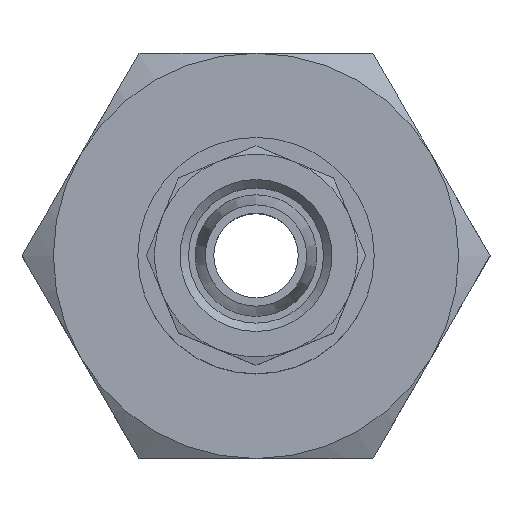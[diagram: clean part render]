
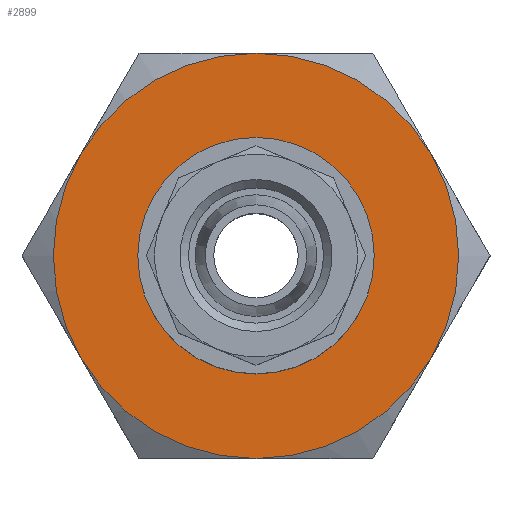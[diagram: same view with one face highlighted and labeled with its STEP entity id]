
A CAD part, top view. The second image highlights one B-rep face of the part: STEP entity #2899.
In plain terms, the highlighted planar face has unit normal (0, 0, 1) as drawn and (0, 1, 0) by its records, which use the part's own axes.
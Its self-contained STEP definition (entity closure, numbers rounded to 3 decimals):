
#1340=PLANE('',#2752);
#1416=ORIENTED_EDGE('',*,*,#1762,.F.);
#1417=ORIENTED_EDGE('',*,*,#1760,.F.);
#1418=ORIENTED_EDGE('',*,*,#1763,.F.);
#1419=ORIENTED_EDGE('',*,*,#1764,.F.);
#1420=ORIENTED_EDGE('',*,*,#1765,.F.);
#1421=ORIENTED_EDGE('',*,*,#1766,.F.);
#1422=ORIENTED_EDGE('',*,*,#1767,.T.);
#1617=CIRCLE('',#2750,12.);
#1618=CIRCLE('',#2753,12.);
#1619=CIRCLE('',#2754,12.);
#1620=CIRCLE('',#2755,12.);
#1621=CIRCLE('',#2756,12.);
#1622=CIRCLE('',#2757,12.);
#1623=CIRCLE('',#2758,5.25);
#1673=VERTEX_POINT('',#2500);
#1676=VERTEX_POINT('',#2509);
#1677=VERTEX_POINT('',#2513);
#1678=VERTEX_POINT('',#2515);
#1679=VERTEX_POINT('',#2517);
#1680=VERTEX_POINT('',#2519);
#1681=VERTEX_POINT('',#2522);
#1760=EDGE_CURVE('',#1676,#1673,#1617,.T.);
#1762=EDGE_CURVE('',#1673,#1677,#1618,.T.);
#1763=EDGE_CURVE('',#1678,#1676,#1619,.T.);
#1764=EDGE_CURVE('',#1679,#1678,#1620,.T.);
#1765=EDGE_CURVE('',#1680,#1679,#1621,.T.);
#1766=EDGE_CURVE('',#1677,#1680,#1622,.T.);
#1767=EDGE_CURVE('',#1681,#1681,#1623,.T.);
#1886=EDGE_LOOP('',(#1416,#1417,#1418,#1419,#1420,#1421));
#1887=EDGE_LOOP('',(#1422));
#1992=FACE_BOUND('',#1886,.T.);
#1993=FACE_BOUND('',#1887,.T.);
#2169=DIRECTION('',(0.,-1.,0.));
#2170=DIRECTION('',(0.,0.,12.));
#2173=DIRECTION('',(0.,1.,0.));
#2174=DIRECTION('',(1.,0.,0.));
#2175=DIRECTION('',(0.,-1.,0.));
#2176=DIRECTION('',(0.,0.,12.));
#2177=DIRECTION('',(0.,-1.,0.));
#2178=DIRECTION('',(0.,0.,12.));
#2179=DIRECTION('',(0.,-1.,0.));
#2180=DIRECTION('',(0.,0.,12.));
#2181=DIRECTION('',(0.,-1.,0.));
#2182=DIRECTION('',(0.,0.,12.));
#2183=DIRECTION('',(0.,-1.,0.));
#2184=DIRECTION('',(0.,0.,12.));
#2185=DIRECTION('',(0.,-1.,0.));
#2186=DIRECTION('',(0.,0.,5.25));
#2500=CARTESIAN_POINT('',(91.418,138.644,6.));
#2509=CARTESIAN_POINT('',(91.418,138.644,-6.));
#2510=CARTESIAN_POINT('',(81.026,138.644,0.));
#2512=CARTESIAN_POINT('',(93.026,138.644,0.));
#2513=CARTESIAN_POINT('',(81.026,138.644,12.));
#2514=CARTESIAN_POINT('',(81.026,138.644,0.));
#2515=CARTESIAN_POINT('',(81.026,138.644,-12.));
#2516=CARTESIAN_POINT('',(81.026,138.644,0.));
#2517=CARTESIAN_POINT('',(70.634,138.644,-6.));
#2518=CARTESIAN_POINT('',(81.026,138.644,0.));
#2519=CARTESIAN_POINT('',(70.634,138.644,6.));
#2520=CARTESIAN_POINT('',(81.026,138.644,0.));
#2521=CARTESIAN_POINT('',(81.026,138.644,0.));
#2522=CARTESIAN_POINT('',(81.026,138.644,5.25));
#2523=CARTESIAN_POINT('',(81.026,138.644,0.));
#2750=AXIS2_PLACEMENT_3D('',#2510,#2169,#2170);
#2752=AXIS2_PLACEMENT_3D('',#2512,#2173,#2174);
#2753=AXIS2_PLACEMENT_3D('',#2514,#2175,#2176);
#2754=AXIS2_PLACEMENT_3D('',#2516,#2177,#2178);
#2755=AXIS2_PLACEMENT_3D('',#2518,#2179,#2180);
#2756=AXIS2_PLACEMENT_3D('',#2520,#2181,#2182);
#2757=AXIS2_PLACEMENT_3D('',#2521,#2183,#2184);
#2758=AXIS2_PLACEMENT_3D('',#2523,#2185,#2186);
#2899=ADVANCED_FACE('',(#1992,#1993),#1340,.T.);
